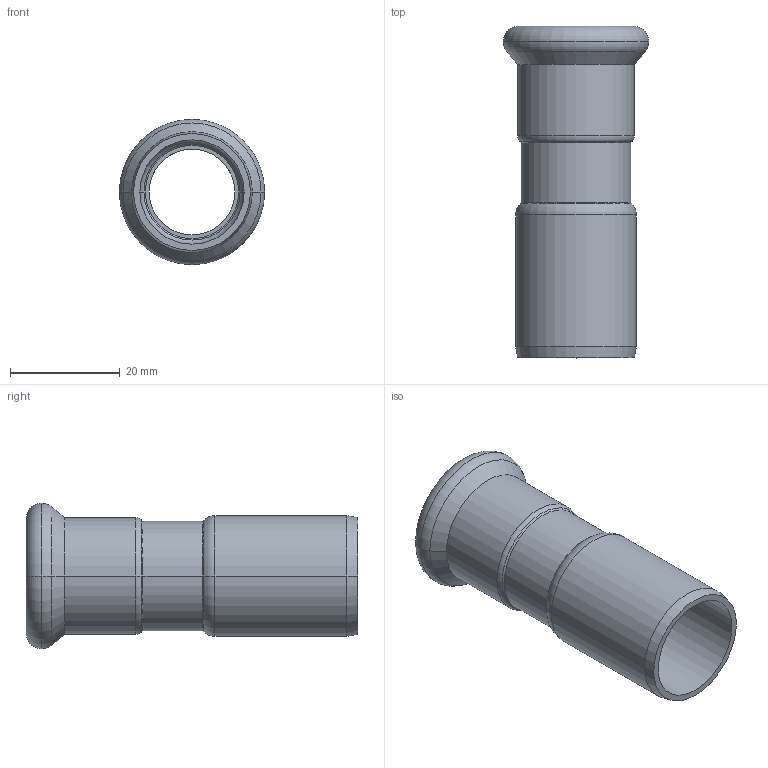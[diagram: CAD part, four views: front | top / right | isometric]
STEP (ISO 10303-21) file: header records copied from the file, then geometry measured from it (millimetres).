
FILE_DESCRIPTION(('CoCreate Modeling STEP Export'),'2;1');
FILE_NAME('C1407 18x22.stp','2014-11-07T15:31:08',(''),(''),'CoCreate Modeling STEP processor for AP214 (Solid Model)','CoCreate Modeling 17.00A 17-Jun-2010 (C) Parametric Technology GmbH','');
FILE_SCHEMA(('AUTOMOTIVE_DESIGN { 1 0 10303 214 1 1 1 1 }'));
Length unit declared in the file: millimetre
Products named in the file (2): C1407_18x22
Assembly tree (1 placements, depth 2):
  C1407_18x22
    C1407_18x22
Bounding box: 26.5 x 60.5 x 26.5 mm (x, y, z)
Volume: 6716.8 mm3; surface area: 8144.7 mm2
Topology: 1 solids, 1 shells, 41 faces, 83 edges, 47 vertices
Faces by surface type: cylinder 16, torus 10, cone 10, plane 5
Entity records: 908 total; most frequent: ORIENTED_EDGE 166, DIRECTION 140, CARTESIAN_POINT 130, EDGE_CURVE 83, AXIS2_PLACEMENT_3D 57, VERTEX_POINT 47, EDGE_LOOP 46, FACE_OUTER_BOUND 41
